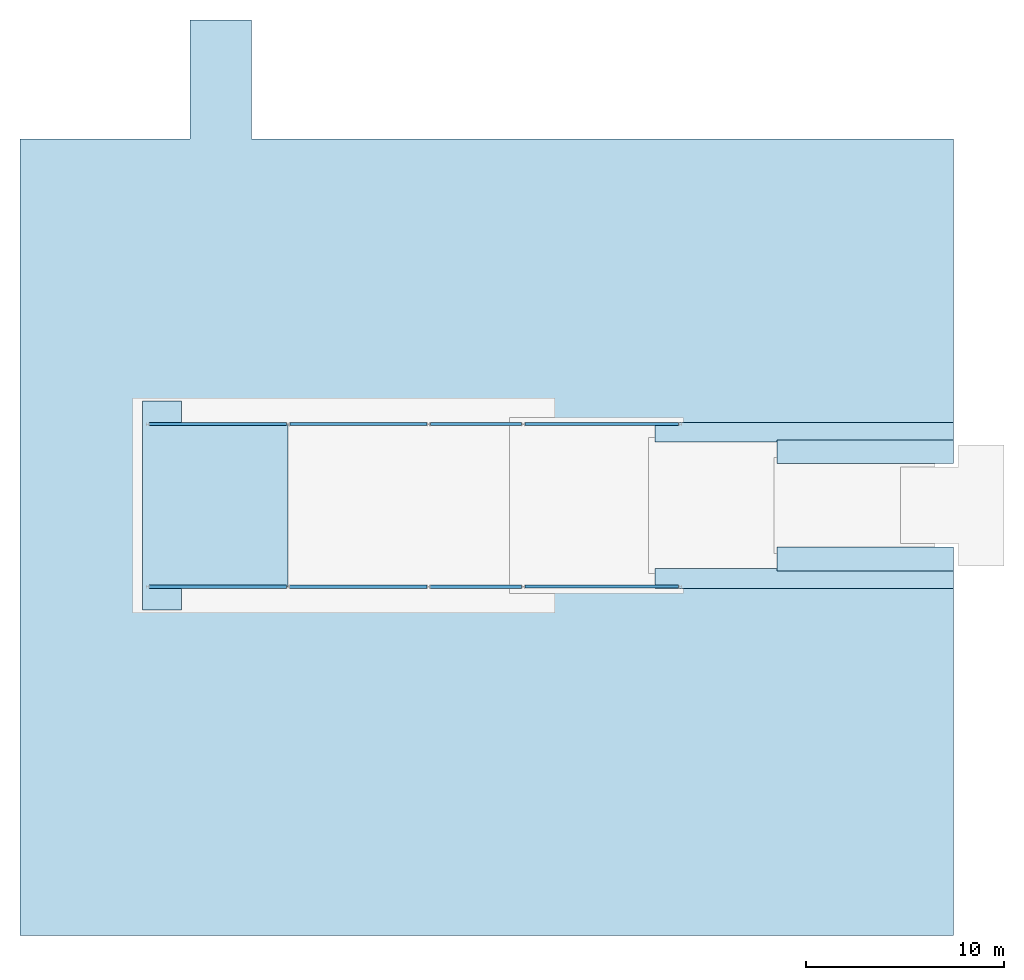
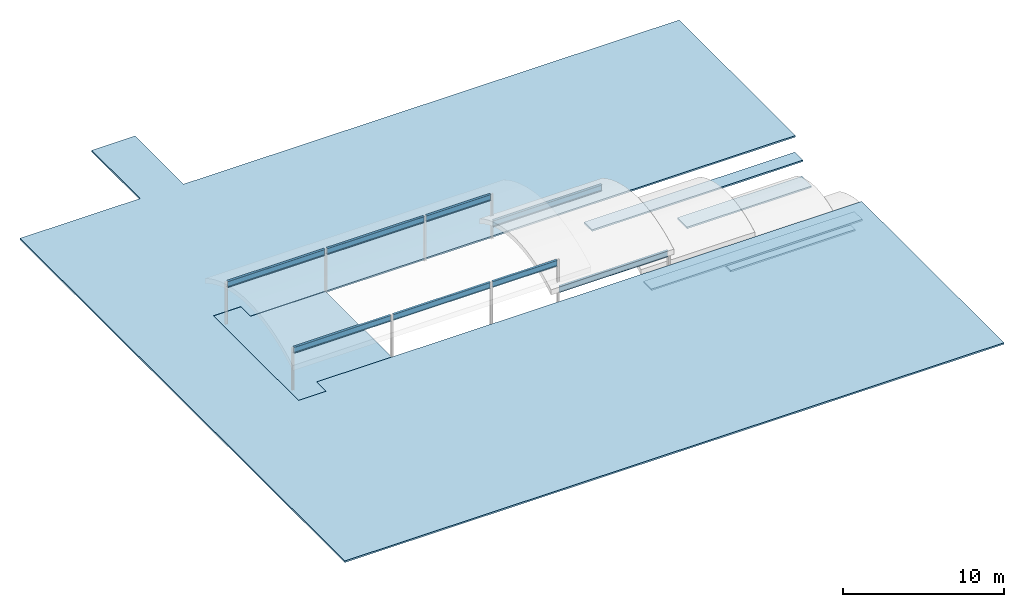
# One storey, part 3 of 5: 8 beams, 6 slabs, 5 elements without a shape of their own.
"""IFC2X3 building model written with IfcOpenShell, lengths in metres."""

from ifc_helpers import new_model, entity, si_unit, converted_unit, frame, frame_2d, origin, origin_2d_with_axis, place, context, project, spatial, polyline, circle_curve, parameter, trimmed, segment, composite_curve, rectangle, outline, extrude, material, layer, layer_set, layer_usage, element, aggregate, save


model = new_model("IFC2X3")

# Units and contexts
model_context = context("Model", 3, precision=1e-09, world=origin())
plan_context = context("Plan", 3, precision=1e-09, world=origin())
ifc_project = project(units=[si_unit("LENGTHUNIT", "METRE"), si_unit("AREAUNIT", "SQUARE_METRE"), si_unit("VOLUMEUNIT", "CUBIC_METRE"), converted_unit("PLANEANGLEUNIT", "DEGREE", entity("IfcRatioMeasure", 0.01745329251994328), si_unit("PLANEANGLEUNIT", "RADIAN"), dimensions=[0, 0, 0, 0, 0, 0, 0]), si_unit("TIMEUNIT", "SECOND")], contexts=[model_context, plan_context])

# Site, building, storey
site_placement = place(None, origin())
site = spatial("IfcSite", under=ifc_project, at=site_placement, Name="Default", CompositionType="ELEMENT")
building_placement = place(site_placement, origin())
building = spatial("IfcBuilding", under=site, at=building_placement, CompositionType="ELEMENT")
storey_placement = place(building_placement, frame((0.0, 0.0, 9.25000000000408)))
storey = spatial("IfcBuildingStorey", under=building, at=storey_placement, Name="Roof - Main", CompositionType="ELEMENT", Elevation=9.25000000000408)

# Beams
ifc_material_1 = material(Name="Metal - Steel - 345 MPa")
beam_1_placement = place(storey_placement, frame((-6.690996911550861, 27.57999999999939, 3.356065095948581), z_axis=(0.0, 0.0, 1.0), x_axis=(0.0, -1.0, 0.0)))
element("IfcBeam", 1, at=beam_1_placement, inside=storey, material=ifc_material_1, Name="M_W-Wide Flange:W460X60:W460X60", ObjectType="M_W-Wide Flange:W460X60", context=model_context, shape_type="SweptSolid", body=[
    extrude(outline(composite_curve([segment(polyline([(0.2142000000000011, -0.0764999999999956), (0.2275000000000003, -0.0764999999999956)]), True, "CONTINUOUS"), segment(polyline([(0.2275000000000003, -0.0764999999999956), (0.2275000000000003, 0.07650000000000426)]), True, "CONTINUOUS"), segment(polyline([(0.2275000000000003, 0.07650000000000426), (0.2142000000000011, 0.07650000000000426)]), True, "CONTINUOUS"), segment(polyline([(0.2142000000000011, 0.07650000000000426), (0.2142000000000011, 0.02170000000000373)]), True, "CONTINUOUS"), segment(trimmed(circle_curve(frame_2d((0.1965000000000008, 0.02170000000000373), x_axis=(0.0, 1.0)), 0.0177), [parameter(180.0)], [parameter(269.9999999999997)], True, "PARAMETER"), False, "CONTINUOUS"), segment(polyline([(0.1965000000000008, 0.004000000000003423), (-0.1964999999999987, 0.004000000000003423)]), True, "CONTINUOUS"), segment(trimmed(circle_curve(frame_2d((-0.1964999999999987, 0.02170000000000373), x_axis=(0.0, 1.0)), 0.0177), [parameter(90.00000000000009)], [parameter(179.9999999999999)], True, "PARAMETER"), False, "CONTINUOUS"), segment(polyline([(-0.214199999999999, 0.02170000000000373), (-0.214199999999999, 0.07650000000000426)]), True, "CONTINUOUS"), segment(polyline([(-0.214199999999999, 0.07650000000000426), (-0.2274999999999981, 0.07650000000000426)]), True, "CONTINUOUS"), segment(polyline([(-0.2274999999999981, 0.07650000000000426), (-0.2274999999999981, -0.0764999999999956)]), True, "CONTINUOUS"), segment(polyline([(-0.2274999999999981, -0.0764999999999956), (-0.214199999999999, -0.0764999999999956)]), True, "CONTINUOUS"), segment(polyline([(-0.214199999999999, -0.0764999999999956), (-0.214199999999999, -0.02169999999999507)]), True, "CONTINUOUS"), segment(trimmed(circle_curve(frame_2d((-0.1964999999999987, -0.02169999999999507), x_axis=(0.0, 1.0)), 0.0177), [parameter(359.9999999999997)], [parameter(89.99999999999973)], True, "PARAMETER"), False, "CONTINUOUS"), segment(polyline([(-0.1964999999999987, -0.00399999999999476), (0.1965000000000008, -0.00399999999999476)]), True, "CONTINUOUS"), segment(trimmed(circle_curve(frame_2d((0.1965000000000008, -0.02169999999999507), x_axis=(0.0, 1.0)), 0.0177), [parameter(269.9999999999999)], [parameter(0.0)], True, "PARAMETER"), False, "CONTINUOUS"), segment(polyline([(0.2142000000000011, -0.02169999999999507), (0.2142000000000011, -0.0764999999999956)]), True, "CONTINUOUS")], self_intersect=False)), frame((0.0, -33.89542711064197, -0.2275000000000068), z_axis=(0.0, 1.0, 0.0), x_axis=(0.0, 0.0, -1.0)), (0.0, 0.0, 1.0), 6.947709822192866),
])
beam_2_placement = place(storey_placement, frame((-6.690996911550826, 35.80496379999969, 3.35389448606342), z_axis=(0.0, 0.0, 1.0), x_axis=(0.0, -1.0, 0.0)))
element("IfcBeam", 2, at=beam_2_placement, inside=storey, material=ifc_material_1, Name="M_W-Wide Flange:W460X60:W460X60", ObjectType="M_W-Wide Flange:W460X60", context=model_context, shape_type="SweptSolid", body=[
    extrude(outline(composite_curve([segment(polyline([(-0.07649999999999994, -0.214199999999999), (-0.07649999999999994, -0.2274999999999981)]), True, "CONTINUOUS"), segment(polyline([(-0.07649999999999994, -0.2274999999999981), (0.07649999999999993, -0.2274999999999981)]), True, "CONTINUOUS"), segment(polyline([(0.07649999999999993, -0.2274999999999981), (0.07649999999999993, -0.214199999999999)]), True, "CONTINUOUS"), segment(polyline([(0.07649999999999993, -0.214199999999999), (0.0216999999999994, -0.214199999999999)]), True, "CONTINUOUS"), segment(trimmed(circle_curve(frame_2d((0.02170000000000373, -0.1964999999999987), x_axis=(1.0, 0.0)), 0.0177), [parameter(180.0)], [parameter(269.9999999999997)], True, "PARAMETER"), False, "CONTINUOUS"), segment(polyline([(0.003999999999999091, -0.1964999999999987), (0.003999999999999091, 0.1965000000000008)]), True, "CONTINUOUS"), segment(trimmed(circle_curve(frame_2d((0.02170000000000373, 0.1965000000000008), x_axis=(1.0, 0.0)), 0.0177), [parameter(90.00000000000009)], [parameter(179.9999999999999)], True, "PARAMETER"), False, "CONTINUOUS"), segment(polyline([(0.0216999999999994, 0.2142000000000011), (0.07649999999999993, 0.2142000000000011)]), True, "CONTINUOUS"), segment(polyline([(0.07649999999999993, 0.2142000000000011), (0.07649999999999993, 0.2275000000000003)]), True, "CONTINUOUS"), segment(polyline([(0.07649999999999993, 0.2275000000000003), (-0.07649999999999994, 0.2275000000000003)]), True, "CONTINUOUS"), segment(polyline([(-0.07649999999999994, 0.2275000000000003), (-0.07649999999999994, 0.2142000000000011)]), True, "CONTINUOUS"), segment(polyline([(-0.07649999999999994, 0.2142000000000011), (-0.0216999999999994, 0.2142000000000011)]), True, "CONTINUOUS"), segment(trimmed(circle_curve(frame_2d((-0.02169999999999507, 0.1965000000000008), x_axis=(1.0, 0.0)), 0.0177), [parameter(359.9999999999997)], [parameter(89.99999999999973)], True, "PARAMETER"), False, "CONTINUOUS"), segment(polyline([(-0.00399999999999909, 0.1965000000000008), (-0.00399999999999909, -0.1964999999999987)]), True, "CONTINUOUS"), segment(trimmed(circle_curve(frame_2d((-0.02169999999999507, -0.1964999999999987), x_axis=(1.0, 0.0)), 0.0177), [parameter(269.9999999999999)], [parameter(0.0)], True, "PARAMETER"), False, "CONTINUOUS"), segment(polyline([(-0.0216999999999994, -0.214199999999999), (-0.07649999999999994, -0.214199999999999)]), True, "CONTINUOUS")], self_intersect=False)), frame((0.0, -19.66030308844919, -0.2275000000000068), z_axis=(0.0, -1.0, 0.0), x_axis=(1.0, 0.0, 0.0)), (0.0, 0.0, -1.0), 4.613554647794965),
])
beam_3_placement = place(storey_placement, frame((-6.690996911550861, 27.57999999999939, 3.356065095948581), z_axis=(0.0, 0.0, 1.0), x_axis=(0.0, -1.0, 0.0)))
element("IfcBeam", 3, at=beam_3_placement, inside=storey, material=ifc_material_1, Name="M_W-Wide Flange:W460X60:W460X60", ObjectType="M_W-Wide Flange:W460X60", context=model_context, shape_type="SweptSolid", body=[
    extrude(outline(composite_curve([segment(polyline([(0.2142000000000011, -0.07649999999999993), (0.2275000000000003, -0.07649999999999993)]), True, "CONTINUOUS"), segment(polyline([(0.2275000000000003, -0.07649999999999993), (0.2275000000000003, 0.07649999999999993)]), True, "CONTINUOUS"), segment(polyline([(0.2275000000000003, 0.07649999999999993), (0.2142000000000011, 0.07649999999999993)]), True, "CONTINUOUS"), segment(polyline([(0.2142000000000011, 0.07649999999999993), (0.2142000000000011, 0.0216999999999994)]), True, "CONTINUOUS"), segment(trimmed(circle_curve(frame_2d((0.1965000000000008, 0.0216999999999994), x_axis=(0.0, 1.0)), 0.0177), [parameter(180.0)], [parameter(269.9999999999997)], True, "PARAMETER"), False, "CONTINUOUS"), segment(polyline([(0.1965000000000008, 0.003999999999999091), (-0.1964999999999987, 0.003999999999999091)]), True, "CONTINUOUS"), segment(trimmed(circle_curve(frame_2d((-0.1964999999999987, 0.0216999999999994), x_axis=(0.0, 1.0)), 0.0177), [parameter(90.00000000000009)], [parameter(179.9999999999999)], True, "PARAMETER"), False, "CONTINUOUS"), segment(polyline([(-0.214199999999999, 0.0216999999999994), (-0.214199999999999, 0.07649999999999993)]), True, "CONTINUOUS"), segment(polyline([(-0.214199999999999, 0.07649999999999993), (-0.2274999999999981, 0.07649999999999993)]), True, "CONTINUOUS"), segment(polyline([(-0.2274999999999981, 0.07649999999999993), (-0.2274999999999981, -0.07649999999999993)]), True, "CONTINUOUS"), segment(polyline([(-0.2274999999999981, -0.07649999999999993), (-0.214199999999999, -0.07649999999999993)]), True, "CONTINUOUS"), segment(polyline([(-0.214199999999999, -0.07649999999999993), (-0.214199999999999, -0.0216999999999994)]), True, "CONTINUOUS"), segment(trimmed(circle_curve(frame_2d((-0.1964999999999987, -0.0216999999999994), x_axis=(0.0, 1.0)), 0.0177), [parameter(359.9999999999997)], [parameter(89.99999999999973)], True, "PARAMETER"), False, "CONTINUOUS"), segment(polyline([(-0.1964999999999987, -0.003999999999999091), (0.1965000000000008, -0.003999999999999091)]), True, "CONTINUOUS"), segment(trimmed(circle_curve(frame_2d((0.1965000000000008, -0.0216999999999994), x_axis=(0.0, 1.0)), 0.0177), [parameter(269.9999999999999)], [parameter(0.0)], True, "PARAMETER"), False, "CONTINUOUS"), segment(polyline([(0.2142000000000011, -0.0216999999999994), (0.2142000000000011, -0.07649999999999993)]), True, "CONTINUOUS")], self_intersect=False)), frame((0.0, -26.77938517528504, -0.2275000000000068), z_axis=(0.0, 1.0, 0.0), x_axis=(0.0, 0.0, -1.0)), (0.0, 0.0, 1.0), 6.941682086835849),
])
beam_4_placement = place(storey_placement, frame((-7.277609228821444, 27.58500000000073, 1.295372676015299), z_axis=(0.0, 0.0, 1.0), x_axis=(0.0, -1.0, 0.0)))
element("IfcBeam", 4, at=beam_4_placement, inside=storey, material=ifc_material_1, Name="M_W-Wide Flange:W460X60:W460X60", ObjectType="M_W-Wide Flange:W460X60", context=model_context, shape_type="SweptSolid", body=[
    extrude(outline(composite_curve([segment(polyline([(0.2142000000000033, -0.07649999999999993), (0.2275000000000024, -0.07649999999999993)]), True, "CONTINUOUS"), segment(polyline([(0.2275000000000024, -0.07649999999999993), (0.2275000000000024, 0.07649999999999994)]), True, "CONTINUOUS"), segment(polyline([(0.2275000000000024, 0.07649999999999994), (0.2142000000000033, 0.07649999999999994)]), True, "CONTINUOUS"), segment(polyline([(0.2142000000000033, 0.07649999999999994), (0.2142000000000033, 0.0216999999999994)]), True, "CONTINUOUS"), segment(trimmed(circle_curve(frame_2d((0.196500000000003, 0.0216999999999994), x_axis=(0.0, 1.0)), 0.0177), [parameter(180.0)], [parameter(269.9999999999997)], True, "PARAMETER"), False, "CONTINUOUS"), segment(polyline([(0.196500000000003, 0.00399999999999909), (-0.1964999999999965, 0.00399999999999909)]), True, "CONTINUOUS"), segment(trimmed(circle_curve(frame_2d((-0.1964999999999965, 0.0216999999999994), x_axis=(0.0, 1.0)), 0.0177), [parameter(90.00000000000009)], [parameter(179.9999999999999)], True, "PARAMETER"), False, "CONTINUOUS"), segment(polyline([(-0.2141999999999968, 0.0216999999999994), (-0.2141999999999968, 0.07649999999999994)]), True, "CONTINUOUS"), segment(polyline([(-0.2141999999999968, 0.07649999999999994), (-0.2274999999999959, 0.07649999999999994)]), True, "CONTINUOUS"), segment(polyline([(-0.2274999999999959, 0.07649999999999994), (-0.2274999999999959, -0.07649999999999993)]), True, "CONTINUOUS"), segment(polyline([(-0.2274999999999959, -0.07649999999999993), (-0.2141999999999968, -0.07649999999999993)]), True, "CONTINUOUS"), segment(polyline([(-0.2141999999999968, -0.07649999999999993), (-0.2141999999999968, -0.0216999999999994)]), True, "CONTINUOUS"), segment(trimmed(circle_curve(frame_2d((-0.1964999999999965, -0.0216999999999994), x_axis=(0.0, 1.0)), 0.0177), [parameter(359.9999999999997)], [parameter(89.99999999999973)], True, "PARAMETER"), False, "CONTINUOUS"), segment(polyline([(-0.1964999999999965, -0.003999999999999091), (0.196500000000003, -0.003999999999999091)]), True, "CONTINUOUS"), segment(trimmed(circle_curve(frame_2d((0.196500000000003, -0.0216999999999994), x_axis=(0.0, 1.0)), 0.0177), [parameter(269.9999999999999)], [parameter(0.0)], True, "PARAMETER"), False, "CONTINUOUS"), segment(polyline([(0.2142000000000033, -0.0216999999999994), (0.2142000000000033, -0.07649999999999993)]), True, "CONTINUOUS")], self_intersect=False)), frame((0.0, -14.28273612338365, -0.2275000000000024), z_axis=(0.0, 1.0, 0.0), x_axis=(0.0, 0.0, -1.0)), (0.0, 0.0, 1.0), 7.771501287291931),
])
beam_5_placement = place(storey_placement, frame((-6.690996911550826, 35.80496379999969, 3.35389448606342), z_axis=(0.0, 0.0, 1.0), x_axis=(0.0, -1.0, 0.0)))
element("IfcBeam", 5, at=beam_5_placement, inside=storey, material=ifc_material_1, Name="M_W-Wide Flange:W460X60:W460X60", ObjectType="M_W-Wide Flange:W460X60", context=model_context, shape_type="SweptSolid", body=[
    extrude(outline(composite_curve([segment(polyline([(-0.07650000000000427, -0.214199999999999), (-0.07650000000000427, -0.2274999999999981)]), True, "CONTINUOUS"), segment(polyline([(-0.07650000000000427, -0.2274999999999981), (0.0764999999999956, -0.2274999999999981)]), True, "CONTINUOUS"), segment(polyline([(0.0764999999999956, -0.2274999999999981), (0.0764999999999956, -0.214199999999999)]), True, "CONTINUOUS"), segment(polyline([(0.0764999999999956, -0.214199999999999), (0.02169999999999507, -0.214199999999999)]), True, "CONTINUOUS"), segment(trimmed(circle_curve(frame_2d((0.0216999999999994, -0.1964999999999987), x_axis=(1.0, 0.0)), 0.0177), [parameter(180.0)], [parameter(269.9999999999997)], True, "PARAMETER"), False, "CONTINUOUS"), segment(polyline([(0.00399999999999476, -0.1964999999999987), (0.00399999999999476, 0.1965000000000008)]), True, "CONTINUOUS"), segment(trimmed(circle_curve(frame_2d((0.0216999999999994, 0.1965000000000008), x_axis=(1.0, 0.0)), 0.0177), [parameter(90.00000000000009)], [parameter(179.9999999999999)], True, "PARAMETER"), False, "CONTINUOUS"), segment(polyline([(0.02169999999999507, 0.2142000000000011), (0.0764999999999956, 0.2142000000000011)]), True, "CONTINUOUS"), segment(polyline([(0.0764999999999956, 0.2142000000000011), (0.0764999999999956, 0.2275000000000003)]), True, "CONTINUOUS"), segment(polyline([(0.0764999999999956, 0.2275000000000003), (-0.07650000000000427, 0.2275000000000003)]), True, "CONTINUOUS"), segment(polyline([(-0.07650000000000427, 0.2275000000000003), (-0.07650000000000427, 0.2142000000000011)]), True, "CONTINUOUS"), segment(polyline([(-0.07650000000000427, 0.2142000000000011), (-0.02170000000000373, 0.2142000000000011)]), True, "CONTINUOUS"), segment(trimmed(circle_curve(frame_2d((-0.0216999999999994, 0.1965000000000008), x_axis=(1.0, 0.0)), 0.0177), [parameter(359.9999999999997)], [parameter(89.99999999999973)], True, "PARAMETER"), False, "CONTINUOUS"), segment(polyline([(-0.004000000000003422, 0.1965000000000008), (-0.004000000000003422, -0.1964999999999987)]), True, "CONTINUOUS"), segment(trimmed(circle_curve(frame_2d((-0.0216999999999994, -0.1964999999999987), x_axis=(1.0, 0.0)), 0.0177), [parameter(269.9999999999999)], [parameter(0.0)], True, "PARAMETER"), False, "CONTINUOUS"), segment(polyline([(-0.02170000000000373, -0.214199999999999), (-0.07650000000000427, -0.214199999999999)]), True, "CONTINUOUS")], self_intersect=False)), frame((0.0, -26.77031728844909, -0.2275000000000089), z_axis=(0.0, -1.0, 0.0), x_axis=(1.0, 0.0, 0.0)), (0.0, 0.0, -1.0), 6.940967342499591),
])
beam_6_placement = place(storey_placement, frame((-6.690996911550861, 27.57999999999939, 3.356065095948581), z_axis=(0.0, 0.0, 1.0), x_axis=(0.0, -1.0, 0.0)))
element("IfcBeam", 6, at=beam_6_placement, inside=storey, material=ifc_material_1, Name="M_W-Wide Flange:W460X60:W460X60", ObjectType="M_W-Wide Flange:W460X60", context=model_context, shape_type="SweptSolid", body=[
    extrude(outline(composite_curve([segment(polyline([(0.2142000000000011, -0.07649999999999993), (0.2275000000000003, -0.07649999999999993)]), True, "CONTINUOUS"), segment(polyline([(0.2275000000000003, -0.07649999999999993), (0.2275000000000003, 0.07649999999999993)]), True, "CONTINUOUS"), segment(polyline([(0.2275000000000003, 0.07649999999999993), (0.2142000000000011, 0.07649999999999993)]), True, "CONTINUOUS"), segment(polyline([(0.2142000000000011, 0.07649999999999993), (0.2142000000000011, 0.0216999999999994)]), True, "CONTINUOUS"), segment(trimmed(circle_curve(frame_2d((0.1965000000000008, 0.0216999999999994), x_axis=(0.0, 1.0)), 0.0177), [parameter(180.0)], [parameter(269.9999999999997)], True, "PARAMETER"), False, "CONTINUOUS"), segment(polyline([(0.1965000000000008, 0.003999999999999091), (-0.1964999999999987, 0.003999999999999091)]), True, "CONTINUOUS"), segment(trimmed(circle_curve(frame_2d((-0.1964999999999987, 0.0216999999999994), x_axis=(0.0, 1.0)), 0.0177), [parameter(90.00000000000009)], [parameter(179.9999999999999)], True, "PARAMETER"), False, "CONTINUOUS"), segment(polyline([(-0.214199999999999, 0.0216999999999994), (-0.214199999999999, 0.07649999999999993)]), True, "CONTINUOUS"), segment(polyline([(-0.214199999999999, 0.07649999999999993), (-0.2274999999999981, 0.07649999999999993)]), True, "CONTINUOUS"), segment(polyline([(-0.2274999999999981, 0.07649999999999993), (-0.2274999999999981, -0.07649999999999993)]), True, "CONTINUOUS"), segment(polyline([(-0.2274999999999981, -0.07649999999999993), (-0.214199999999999, -0.07649999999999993)]), True, "CONTINUOUS"), segment(polyline([(-0.214199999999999, -0.07649999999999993), (-0.214199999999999, -0.0216999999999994)]), True, "CONTINUOUS"), segment(trimmed(circle_curve(frame_2d((-0.1964999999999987, -0.0216999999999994), x_axis=(0.0, 1.0)), 0.0177), [parameter(359.9999999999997)], [parameter(89.99999999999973)], True, "PARAMETER"), False, "CONTINUOUS"), segment(polyline([(-0.1964999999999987, -0.003999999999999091), (0.1965000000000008, -0.003999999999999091)]), True, "CONTINUOUS"), segment(trimmed(circle_curve(frame_2d((0.1965000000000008, -0.0216999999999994), x_axis=(0.0, 1.0)), 0.0177), [parameter(269.9999999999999)], [parameter(0.0)], True, "PARAMETER"), False, "CONTINUOUS"), segment(polyline([(0.2142000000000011, -0.0216999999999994), (0.2142000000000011, -0.07649999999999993)]), True, "CONTINUOUS")], self_intersect=False)), frame((0.0, -19.67643598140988, -0.2275000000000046), z_axis=(0.0, 1.0, 0.0), x_axis=(0.0, 0.0, -1.0)), (0.0, 0.0, 1.0), 4.629687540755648),
])
beam_7_placement = place(storey_placement, frame((-6.690996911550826, 35.80496379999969, 3.35389448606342), z_axis=(0.0, 0.0, 1.0), x_axis=(0.0, -1.0, 0.0)))
element("IfcBeam", 7, at=beam_7_placement, inside=storey, material=ifc_material_1, Name="M_W-Wide Flange:W460X60:W460X60", ObjectType="M_W-Wide Flange:W460X60", context=model_context, shape_type="SweptSolid", body=[
    extrude(outline(composite_curve([segment(polyline([(-0.07649999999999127, -0.214199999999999), (-0.07649999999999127, -0.2274999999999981)]), True, "CONTINUOUS"), segment(polyline([(-0.07649999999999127, -0.2274999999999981), (0.07650000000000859, -0.2274999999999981)]), True, "CONTINUOUS"), segment(polyline([(0.07650000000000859, -0.2274999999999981), (0.07650000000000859, -0.214199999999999)]), True, "CONTINUOUS"), segment(polyline([(0.07650000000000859, -0.214199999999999), (0.02170000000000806, -0.214199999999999)]), True, "CONTINUOUS"), segment(trimmed(circle_curve(frame_2d((0.02170000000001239, -0.1964999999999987), x_axis=(1.0, 0.0)), 0.0177), [parameter(180.0)], [parameter(269.9999999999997)], True, "PARAMETER"), False, "CONTINUOUS"), segment(polyline([(0.004000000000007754, -0.1964999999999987), (0.004000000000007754, 0.1965000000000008)]), True, "CONTINUOUS"), segment(trimmed(circle_curve(frame_2d((0.02170000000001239, 0.1965000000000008), x_axis=(1.0, 0.0)), 0.0177), [parameter(90.00000000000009)], [parameter(179.9999999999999)], True, "PARAMETER"), False, "CONTINUOUS"), segment(polyline([(0.02170000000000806, 0.2142000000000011), (0.07650000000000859, 0.2142000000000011)]), True, "CONTINUOUS"), segment(polyline([(0.07650000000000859, 0.2142000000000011), (0.07650000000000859, 0.2275000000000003)]), True, "CONTINUOUS"), segment(polyline([(0.07650000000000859, 0.2275000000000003), (-0.07649999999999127, 0.2275000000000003)]), True, "CONTINUOUS"), segment(polyline([(-0.07649999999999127, 0.2275000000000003), (-0.07649999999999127, 0.2142000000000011)]), True, "CONTINUOUS"), segment(polyline([(-0.07649999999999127, 0.2142000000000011), (-0.02169999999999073, 0.2142000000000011)]), True, "CONTINUOUS"), segment(trimmed(circle_curve(frame_2d((-0.0216999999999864, 0.1965000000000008), x_axis=(1.0, 0.0)), 0.0177), [parameter(359.9999999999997)], [parameter(89.99999999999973)], True, "PARAMETER"), False, "CONTINUOUS"), segment(polyline([(-0.003999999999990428, 0.1965000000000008), (-0.003999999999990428, -0.1964999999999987)]), True, "CONTINUOUS"), segment(trimmed(circle_curve(frame_2d((-0.0216999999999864, -0.1964999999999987), x_axis=(1.0, 0.0)), 0.0177), [parameter(269.9999999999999)], [parameter(0.0)], True, "PARAMETER"), False, "CONTINUOUS"), segment(polyline([(-0.02169999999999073, -0.214199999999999), (-0.07649999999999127, -0.214199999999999)]), True, "CONTINUOUS")], self_intersect=False)), frame((0.0, -33.89328442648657, -0.2275000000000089), z_axis=(0.0, -1.0, 0.0), x_axis=(1.0, 0.0, 0.0)), (0.0, 0.0, -1.0), 6.945567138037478),
])
beam_8_placement = place(storey_placement, frame((-7.277609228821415, 35.80499999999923, 1.295372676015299), z_axis=(0.0, 0.0, 1.0), x_axis=(0.0, -1.0, 0.0)))
element("IfcBeam", 8, at=beam_8_placement, inside=storey, material=ifc_material_1, Name="M_W-Wide Flange:W460X60:W460X60", ObjectType="M_W-Wide Flange:W460X60", context=model_context, shape_type="SweptSolid", body=[
    extrude(outline(composite_curve([segment(polyline([(-0.07649999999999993, -0.2142000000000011), (-0.07649999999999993, -0.2275000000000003)]), True, "CONTINUOUS"), segment(polyline([(-0.07649999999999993, -0.2275000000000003), (0.07649999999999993, -0.2275000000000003)]), True, "CONTINUOUS"), segment(polyline([(0.07649999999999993, -0.2275000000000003), (0.07649999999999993, -0.2142000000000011)]), True, "CONTINUOUS"), segment(polyline([(0.07649999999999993, -0.2142000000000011), (0.0216999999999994, -0.2142000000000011)]), True, "CONTINUOUS"), segment(trimmed(circle_curve(frame_2d((0.02169999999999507, -0.1965000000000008), x_axis=(1.0, 0.0)), 0.0177), [parameter(180.0)], [parameter(269.9999999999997)], True, "PARAMETER"), False, "CONTINUOUS"), segment(polyline([(0.003999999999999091, -0.1965000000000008), (0.003999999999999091, 0.1964999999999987)]), True, "CONTINUOUS"), segment(trimmed(circle_curve(frame_2d((0.02169999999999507, 0.1964999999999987), x_axis=(1.0, 0.0)), 0.0177), [parameter(90.00000000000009)], [parameter(179.9999999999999)], True, "PARAMETER"), False, "CONTINUOUS"), segment(polyline([(0.0216999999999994, 0.214199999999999), (0.07649999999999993, 0.214199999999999)]), True, "CONTINUOUS"), segment(polyline([(0.07649999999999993, 0.214199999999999), (0.07649999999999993, 0.2274999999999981)]), True, "CONTINUOUS"), segment(polyline([(0.07649999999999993, 0.2274999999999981), (-0.07649999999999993, 0.2274999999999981)]), True, "CONTINUOUS"), segment(polyline([(-0.07649999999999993, 0.2274999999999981), (-0.07649999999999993, 0.214199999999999)]), True, "CONTINUOUS"), segment(polyline([(-0.07649999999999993, 0.214199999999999), (-0.0216999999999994, 0.214199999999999)]), True, "CONTINUOUS"), segment(trimmed(circle_curve(frame_2d((-0.02170000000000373, 0.1964999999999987), x_axis=(1.0, 0.0)), 0.0177), [parameter(359.9999999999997)], [parameter(89.99999999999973)], True, "PARAMETER"), False, "CONTINUOUS"), segment(polyline([(-0.003999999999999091, 0.1964999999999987), (-0.003999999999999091, -0.1965000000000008)]), True, "CONTINUOUS"), segment(trimmed(circle_curve(frame_2d((-0.02170000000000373, -0.1965000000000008), x_axis=(1.0, 0.0)), 0.0177), [parameter(269.9999999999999)], [parameter(0.0)], True, "PARAMETER"), False, "CONTINUOUS"), segment(polyline([(-0.0216999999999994, -0.2142000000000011), (-0.07649999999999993, -0.2142000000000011)]), True, "CONTINUOUS")], self_intersect=False)), frame((0.0, -14.28273612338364, -0.2275000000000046), z_axis=(0.0, -1.0, 0.0), x_axis=(1.0, 0.0, 0.0)), (0.0, 0.0, -1.0), 7.771501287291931),
])

# Slab
ifc_material_2 = material(Name="Concrete - Cast in Situ Lightweight")
ifc_layer_1 = layer(ifc_material_2, 0.064)
ifc_material_3 = material(Name="Metal - Decking")
ifc_layer_2 = layer(ifc_material_3, 0.038)
ifc_layer_set_1 = layer_set([ifc_layer_1, ifc_layer_2], Name="Floor:64mm Concrete With 38mm Metal Deck")
ifc_layer_usage_1 = layer_usage(ifc_layer_set_1, "AXIS3", "POSITIVE", 0.0)
slab_1_placement = place(storey_placement, frame((-40.91500000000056, 26.40550986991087, 0.0)))
element("IfcSlab", 9, at=slab_1_placement, inside=storey, material=ifc_layer_usage_1, Name="Floor:64mm Concrete With 38mm Metal Deck", ObjectType="Floor:64mm Concrete With 38mm Metal Deck", PredefinedType="FLOOR", context=model_context, shape_type="SweptSolid", body=[
    extrude(outline(polyline([(1.701453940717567, 5.289490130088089), (1.701453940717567, 4.110000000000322), (-3.682500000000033, 4.110000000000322), (-3.682500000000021, -4.114999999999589), (1.701453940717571, -4.114999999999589), (1.701453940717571, -5.289490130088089), (3.682500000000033, -5.289490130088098), (3.682500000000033, 5.289490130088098), (1.701453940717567, 5.289490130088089)])), frame((3.682500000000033, 5.289490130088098, 0.1019999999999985), z_axis=(0.0, 0.0, -1.0), x_axis=(-1.0, 0.0, 0.0)), (0.0, 0.0, 1.0), 0.1019999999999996),
])

# Roof, slab
ifc_material_4 = material(Name="Roofing - EPDM Membrane")
ifc_layer_3 = layer(ifc_material_4, 0.006)
ifc_material_5 = material(Name="Insulation / Thermal Barriers - Rigid insulation")
ifc_layer_4 = layer(ifc_material_5, 0.076)
ifc_layer_5 = layer(ifc_material_3, 0.038)
ifc_layer_set_2 = layer_set([ifc_layer_3, ifc_layer_4, ifc_layer_5], Name="Basic Roof:EPDM Membrane on Rigid Insul on Metal Deck")
ifc_layer_usage_2 = layer_usage(ifc_layer_set_2, "AXIS3", "NEGATIVE", 0.0)
roof_1_placement = place(storey_placement, origin())
roof_1 = element("IfcRoof", 10, at=roof_1_placement, inside=storey, material=ifc_layer_usage_2, Name="Basic Roof:EPDM Membrane on Rigid Insul on Metal Deck", ObjectType="Basic Roof:EPDM Membrane on Rigid Insul on Metal Deck", ShapeType="NOTDEFINED")
slab_2_placement = place(roof_1_placement, frame((-8.813726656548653, 33.80399939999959, -2.608500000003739)))
slab_2 = element("IfcSlab", 11, at=slab_2_placement, Name="Basic Roof:EPDM Membrane on Rigid Insul on Metal Deck", ObjectType="Basic Roof:EPDM Membrane on Rigid Insul on Metal Deck", PredefinedType="ROOF", context=model_context, shape_type="SweptSolid", body=[
    extrude(rectangle(XDim=8.926726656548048, YDim=1.206000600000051, at=frame_2d((0.0, 0.0), x_axis=(-1.0, 0.0))), frame((4.463363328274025, 0.6030003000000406, 0.0)), (0.0, 0.0, 1.0), 0.1199999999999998),
])
aggregate(roof_1, [slab_2])

roof_2_placement = place(storey_placement, origin())
roof_2 = element("IfcRoof", 12, at=roof_2_placement, inside=storey, material=ifc_layer_usage_2, Name="Basic Roof:EPDM Membrane on Rigid Insul on Metal Deck", ObjectType="Basic Roof:EPDM Membrane on Rigid Insul on Metal Deck", ShapeType="NOTDEFINED")
slab_3_placement = place(roof_2_placement, frame((-47.11300000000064, 9.926999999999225, 0.0)))
slab_3 = element("IfcSlab", 13, at=slab_3_placement, Name="Basic Roof:EPDM Membrane on Rigid Insul on Metal Deck", ObjectType="Basic Roof:EPDM Membrane on Rigid Insul on Metal Deck", PredefinedType="ROOF", context=model_context, shape_type="SweptSolid", body=[
    extrude(outline(polyline([(-23.61300000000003, 17.1474387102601), (-23.61300000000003, -23.163), (23.613, -23.163), (23.613, -5.509999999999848), (-15.43395394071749, -5.509999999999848), (-15.43395394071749, -6.684490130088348), (-17.41499999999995, -6.684490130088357), (-17.41499999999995, 3.894490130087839), (-15.43395394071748, 3.894490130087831), (-15.43395394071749, 2.715000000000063), (23.61300000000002, 2.715000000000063), (23.61300000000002, 17.14643871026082), (-11.89699999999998, 17.14643871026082), (-11.89699999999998, 23.163), (-15.00299999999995, 23.163), (-15.00299999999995, 17.1474387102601), (-23.61300000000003, 17.1474387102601)])), frame((23.61300000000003, 23.163, 0.0)), (0.0, 0.0, 1.0), 0.1199999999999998),
])
aggregate(roof_2, [slab_3])

roof_3_placement = place(storey_placement, origin())
roof_3 = element("IfcRoof", 14, at=roof_3_placement, inside=storey, material=ifc_layer_usage_2, Name="Basic Roof:EPDM Membrane on Rigid Insul on Metal Deck", ObjectType="Basic Roof:EPDM Membrane on Rigid Insul on Metal Deck", ShapeType="NOTDEFINED")
slab_4_placement = place(roof_3_placement, frame((-8.81372665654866, 28.37999999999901, -2.608500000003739)))
slab_4 = element("IfcSlab", 15, at=slab_4_placement, Name="Basic Roof:EPDM Membrane on Rigid Insul on Metal Deck", ObjectType="Basic Roof:EPDM Membrane on Rigid Insul on Metal Deck", PredefinedType="ROOF", context=model_context, shape_type="SweptSolid", body=[
    extrude(rectangle(XDim=8.926726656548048, YDim=1.206000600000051, at=origin_2d_with_axis()), frame((4.463363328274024, 0.6030003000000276, 0.0)), (0.0, 0.0, 1.0), 0.1199999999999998),
])
aggregate(roof_3, [slab_4])

roof_4_placement = place(storey_placement, origin())
roof_4 = element("IfcRoof", 16, at=roof_4_placement, inside=storey, material=ifc_layer_usage_2, Name="Basic Roof:EPDM Membrane on Rigid Insul on Metal Deck", ObjectType="Basic Roof:EPDM Membrane on Rigid Insul on Metal Deck", ShapeType="NOTDEFINED")
slab_5_placement = place(roof_4_placement, frame((-14.98597500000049, 27.50399999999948, -1.31350000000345)))
slab_5 = element("IfcSlab", 17, at=slab_5_placement, Name="Basic Roof:EPDM Membrane on Rigid Insul on Metal Deck", ObjectType="Basic Roof:EPDM Membrane on Rigid Insul on Metal Deck", PredefinedType="ROOF", context=model_context, shape_type="SweptSolid", body=[
    extrude(rectangle(XDim=15.09897499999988, YDim=0.9889999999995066, at=origin_2d_with_axis()), frame((7.549487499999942, 0.4944999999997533, 0.0)), (0.0, 0.0, 1.0), 0.1199999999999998),
])
aggregate(roof_4, [slab_5])

roof_5_placement = place(storey_placement, origin())
roof_5 = element("IfcRoof", 18, at=roof_5_placement, inside=storey, material=ifc_layer_usage_2, Name="Basic Roof:EPDM Membrane on Rigid Insul on Metal Deck", ObjectType="Basic Roof:EPDM Membrane on Rigid Insul on Metal Deck", ShapeType="NOTDEFINED")
slab_6_placement = place(roof_5_placement, frame((-14.98597500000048, 34.89699999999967, -1.31350000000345)))
slab_6 = element("IfcSlab", 19, at=slab_6_placement, Name="Basic Roof:EPDM Membrane on Rigid Insul on Metal Deck", ObjectType="Basic Roof:EPDM Membrane on Rigid Insul on Metal Deck", PredefinedType="ROOF", context=model_context, shape_type="SweptSolid", body=[
    extrude(rectangle(XDim=15.09897499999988, YDim=0.9889999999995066, at=frame_2d((0.0, 0.0), x_axis=(-1.0, 0.0))), frame((7.54948749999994, 0.494499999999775, 0.0)), (0.0, 0.0, 1.0), 0.1199999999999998),
])
aggregate(roof_5, [slab_6])

save(model, "model.ifc")
